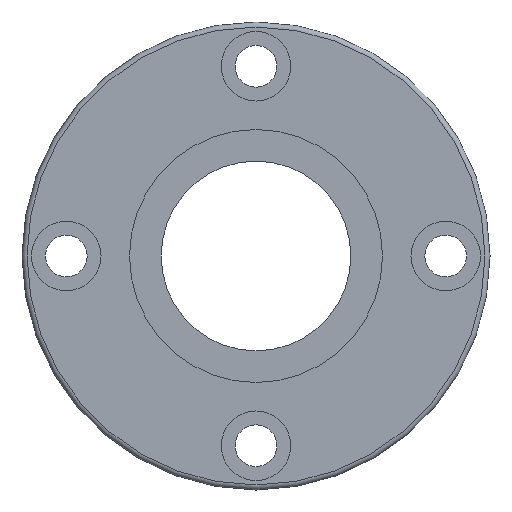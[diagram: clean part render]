
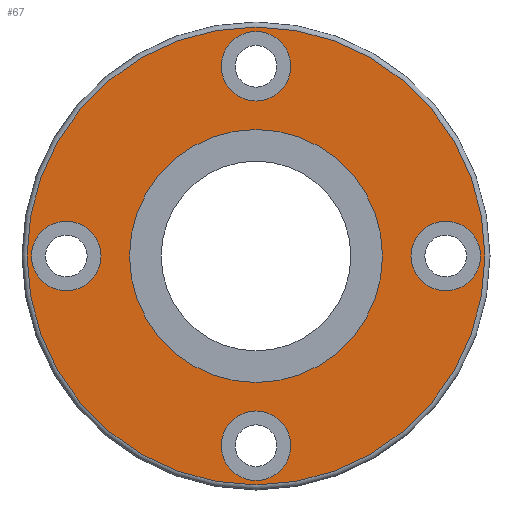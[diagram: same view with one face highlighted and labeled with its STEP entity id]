
A CAD part, left-side view. The second image highlights one B-rep face of the part: STEP entity #67.
In plain terms, the highlighted planar face has unit normal (-1, 0, 0).
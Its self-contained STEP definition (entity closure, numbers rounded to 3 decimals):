
#67 = ADVANCED_FACE( '', ( #154, #155, #156, #157, #158, #159 ), #160, .T. );
#154 = FACE_BOUND( '', #277, .T. );
#155 = FACE_BOUND( '', #278, .T. );
#156 = FACE_BOUND( '', #279, .T. );
#157 = FACE_BOUND( '', #280, .T. );
#158 = FACE_BOUND( '', #281, .T. );
#159 = FACE_OUTER_BOUND( '', #282, .T. );
#160 = PLANE( '', #283 );
#277 = EDGE_LOOP( '', ( #410 ) );
#278 = EDGE_LOOP( '', ( #411 ) );
#279 = EDGE_LOOP( '', ( #412 ) );
#280 = EDGE_LOOP( '', ( #413 ) );
#281 = EDGE_LOOP( '', ( #414 ) );
#282 = EDGE_LOOP( '', ( #415 ) );
#283 = AXIS2_PLACEMENT_3D( '', #416, #417, #418 );
#410 = ORIENTED_EDGE( '', *, *, #554, .T. );
#411 = ORIENTED_EDGE( '', *, *, #555, .T. );
#412 = ORIENTED_EDGE( '', *, *, #544, .T. );
#413 = ORIENTED_EDGE( '', *, *, #556, .T. );
#414 = ORIENTED_EDGE( '', *, *, #557, .F. );
#415 = ORIENTED_EDGE( '', *, *, #558, .T. );
#416 = CARTESIAN_POINT( '', ( 0., 28.4, 0. ) );
#417 = DIRECTION( '', ( -1., 0., 0. ) );
#418 = DIRECTION( '', ( 0., 1., 0. ) );
#544 = EDGE_CURVE( '', #610, #610, #611, .T. );
#554 = EDGE_CURVE( '', #626, #626, #627, .T. );
#555 = EDGE_CURVE( '', #628, #628, #629, .T. );
#556 = EDGE_CURVE( '', #630, #630, #631, .T. );
#557 = EDGE_CURVE( '', #632, #632, #633, .T. );
#558 = EDGE_CURVE( '', #634, #634, #635, .T. );
#610 = VERTEX_POINT( '', #699 );
#611 = CIRCLE( '', #700, 5.5 );
#626 = VERTEX_POINT( '', #715 );
#627 = CIRCLE( '', #716, 5.5 );
#628 = VERTEX_POINT( '', #717 );
#629 = CIRCLE( '', #718, 5.5 );
#630 = VERTEX_POINT( '', #719 );
#631 = CIRCLE( '', #720, 5.5 );
#632 = VERTEX_POINT( '', #721 );
#633 = CIRCLE( '', #722, 20. );
#634 = VERTEX_POINT( '', #723 );
#635 = CIRCLE( '', #724, 36.2 );
#699 = CARTESIAN_POINT( '', ( 0., -35.5, 0. ) );
#700 = AXIS2_PLACEMENT_3D( '', #791, #792, #793 );
#715 = CARTESIAN_POINT( '', ( 0., 0., -35.5 ) );
#716 = AXIS2_PLACEMENT_3D( '', #809, #810, #811 );
#717 = CARTESIAN_POINT( '', ( 0., 0., 35.5 ) );
#718 = AXIS2_PLACEMENT_3D( '', #812, #813, #814 );
#719 = CARTESIAN_POINT( '', ( 0., 35.5, 0. ) );
#720 = AXIS2_PLACEMENT_3D( '', #815, #816, #817 );
#721 = CARTESIAN_POINT( '', ( 0., 20., 0. ) );
#722 = AXIS2_PLACEMENT_3D( '', #818, #819, #820 );
#723 = CARTESIAN_POINT( '', ( 0., 36.2, 0. ) );
#724 = AXIS2_PLACEMENT_3D( '', #821, #822, #823 );
#791 = CARTESIAN_POINT( '', ( 0., -30., 0. ) );
#792 = DIRECTION( '', ( 1., 0., 0. ) );
#793 = DIRECTION( '', ( 0., -1., 0. ) );
#809 = CARTESIAN_POINT( '', ( 0., 0., -30. ) );
#810 = DIRECTION( '', ( 1., 0., 0. ) );
#811 = DIRECTION( '', ( 0., 0., -1. ) );
#812 = CARTESIAN_POINT( '', ( 0., 0., 30. ) );
#813 = DIRECTION( '', ( 1., 0., 0. ) );
#814 = DIRECTION( '', ( 0., 0., 1. ) );
#815 = CARTESIAN_POINT( '', ( 0., 30., 0. ) );
#816 = DIRECTION( '', ( 1., 0., 0. ) );
#817 = DIRECTION( '', ( 0., 1., 0. ) );
#818 = CARTESIAN_POINT( '', ( 0., 0., 0. ) );
#819 = DIRECTION( '', ( -1., 0., 0. ) );
#820 = DIRECTION( '', ( 0., 1., 0. ) );
#821 = CARTESIAN_POINT( '', ( 0., 0., 0. ) );
#822 = DIRECTION( '', ( -1., 0., 0. ) );
#823 = DIRECTION( '', ( 0., 0., 1. ) );
